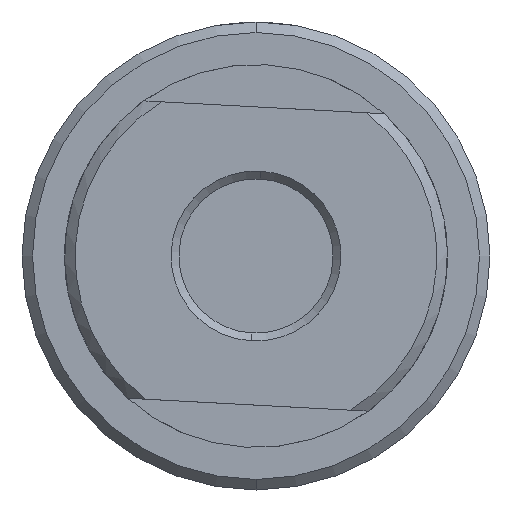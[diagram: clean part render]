
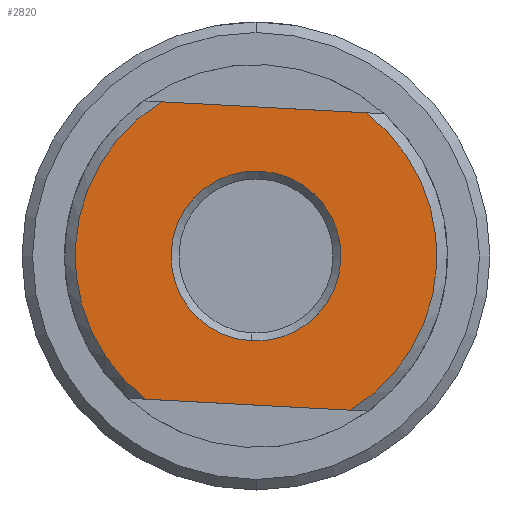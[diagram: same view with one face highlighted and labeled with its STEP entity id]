
A CAD part, front view. The second image highlights one B-rep face of the part: STEP entity #2820.
In plain terms, the highlighted planar face has unit normal (0, -1, 0).
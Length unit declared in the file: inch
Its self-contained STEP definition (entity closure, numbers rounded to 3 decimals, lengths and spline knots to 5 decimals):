
#9 = DIRECTION ( 'NONE',  ( 0., 1., 0. ) ) ;
#109 = CARTESIAN_POINT ( 'NONE',  ( 0.18087, -1.0464, 0.5404 ) ) ;
#116 = VERTEX_POINT ( 'NONE', #570 ) ;
#219 = CARTESIAN_POINT ( 'NONE',  ( -0.14401, -1.0464, 0.11974 ) ) ;
#245 = CARTESIAN_POINT ( 'NONE',  ( -0.14401, -1.0464, 0.11974 ) ) ;
#292 = VERTEX_POINT ( 'NONE', #847 ) ;
#303 = ORIENTED_EDGE ( 'NONE', *, *, #3085, .T. ) ;
#475 = VERTEX_POINT ( 'NONE', #1944 ) ;
#485 = DIRECTION ( 'NONE',  ( -0.054, 0., -0.999 ) ) ;
#488 = CIRCLE ( 'NONE', #2726, 0.24975 ) ;
#512 = CIRCLE ( 'NONE', #2199, 0.24975 ) ;
#570 = CARTESIAN_POINT ( 'NONE',  ( -0.15743, -1.0464, -0.12965 ) ) ;
#601 = DIRECTION ( 'NONE',  ( 0., -1., 0. ) ) ;
#616 = EDGE_CURVE ( 'NONE', #292, #116, #488, .T. ) ;
#652 = ORIENTED_EDGE ( 'NONE', *, *, #2975, .F. ) ;
#698 = VERTEX_POINT ( 'NONE', #109 ) ;
#705 = DIRECTION ( 'NONE',  ( 0., 1., 0. ) ) ;
#845 = AXIS2_PLACEMENT_3D ( 'NONE', #2047, #601, #2283 ) ;
#847 = CARTESIAN_POINT ( 'NONE',  ( -0.13059, -1.0464, 0.36913 ) ) ;
#877 = CARTESIAN_POINT ( 'NONE',  ( -0.46888, -1.0464, -0.30091 ) ) ;
#923 = CIRCLE ( 'NONE', #1359, 0.5315 ) ;
#960 = EDGE_LOOP ( 'NONE', ( #1103, #2607, #652, #303 ) ) ;
#971 = DIRECTION ( 'NONE',  ( 0., -1., 0. ) ) ;
#1019 = VECTOR ( 'NONE', #2310, 39.37008 ) ;
#1091 = VERTEX_POINT ( 'NONE', #877 ) ;
#1103 = ORIENTED_EDGE ( 'NONE', *, *, #2922, .F. ) ;
#1158 = DIRECTION ( 'NONE',  ( 0.999, 0., -0.054 ) ) ;
#1191 = ORIENTED_EDGE ( 'NONE', *, *, #1956, .T. ) ;
#1277 = CIRCLE ( 'NONE', #3036, 0.5315 ) ;
#1359 = AXIS2_PLACEMENT_3D ( 'NONE', #245, #1930, #485 ) ;
#1516 = LINE ( 'NONE', #2583, #2792 ) ;
#1524 = FACE_OUTER_BOUND ( 'NONE', #960, .T. ) ;
#1783 = ORIENTED_EDGE ( 'NONE', *, *, #616, .T. ) ;
#1930 = DIRECTION ( 'NONE',  ( 0., -1., 0. ) ) ;
#1944 = CARTESIAN_POINT ( 'NONE',  ( 0.13386, -1.0464, -0.33334 ) ) ;
#1956 = EDGE_CURVE ( 'NONE', #116, #292, #512, .T. ) ;
#2047 = CARTESIAN_POINT ( 'NONE',  ( -0.70569, -1.0464, 0.14996 ) ) ;
#2074 = VERTEX_POINT ( 'NONE', #2920 ) ;
#2155 = CARTESIAN_POINT ( 'NONE',  ( -0.14401, -1.0464, 0.11974 ) ) ;
#2199 = AXIS2_PLACEMENT_3D ( 'NONE', #2155, #705, #2390 ) ;
#2275 = PLANE ( 'NONE',  #845 ) ;
#2283 = DIRECTION ( 'NONE',  ( -0.054, 0., -0.999 ) ) ;
#2298 = LINE ( 'NONE', #3047, #1019 ) ;
#2310 = DIRECTION ( 'NONE',  ( -0.999, 0., 0.054 ) ) ;
#2390 = DIRECTION ( 'NONE',  ( -0.054, 0., -0.999 ) ) ;
#2401 = CARTESIAN_POINT ( 'NONE',  ( -0.14401, -1.0464, 0.11974 ) ) ;
#2516 = FACE_BOUND ( 'NONE', #2589, .T. ) ;
#2526 = EDGE_CURVE ( 'NONE', #475, #698, #923, .T. ) ;
#2583 = CARTESIAN_POINT ( 'NONE',  ( 0.23254, -1.0464, 0.53762 ) ) ;
#2589 = EDGE_LOOP ( 'NONE', ( #1191, #1783 ) ) ;
#2607 = ORIENTED_EDGE ( 'NONE', *, *, #2526, .T. ) ;
#2642 = DIRECTION ( 'NONE',  ( -0.054, 0., -0.999 ) ) ;
#2726 = AXIS2_PLACEMENT_3D ( 'NONE', #219, #9, #2976 ) ;
#2792 = VECTOR ( 'NONE', #1158, 39.37008 ) ;
#2820 = ADVANCED_FACE ( 'NONE', ( #1524, #2516 ), #2275, .T. ) ;
#2920 = CARTESIAN_POINT ( 'NONE',  ( -0.42187, -1.0464, 0.57283 ) ) ;
#2922 = EDGE_CURVE ( 'NONE', #475, #1091, #2298, .T. ) ;
#2975 = EDGE_CURVE ( 'NONE', #2074, #698, #1516, .T. ) ;
#2976 = DIRECTION ( 'NONE',  ( -0.054, 0., -0.999 ) ) ;
#3036 = AXIS2_PLACEMENT_3D ( 'NONE', #2401, #971, #2642 ) ;
#3047 = CARTESIAN_POINT ( 'NONE',  ( 0.18553, -1.0464, -0.33612 ) ) ;
#3085 = EDGE_CURVE ( 'NONE', #2074, #1091, #1277, .T. ) ;
